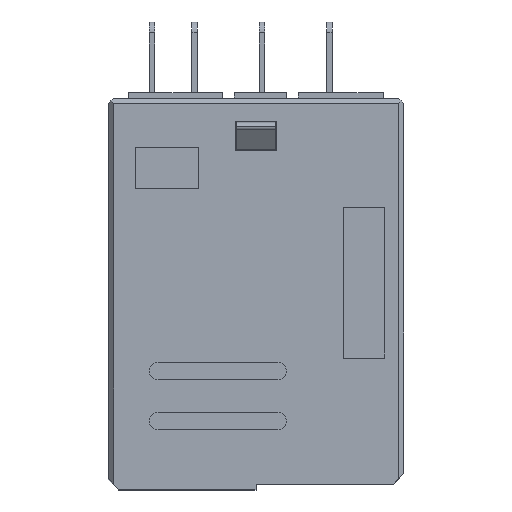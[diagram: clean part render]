
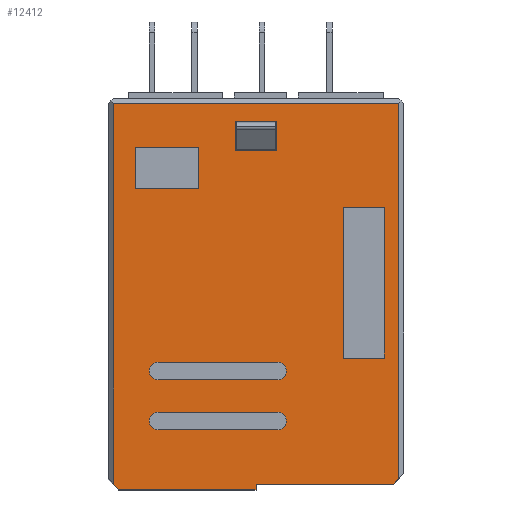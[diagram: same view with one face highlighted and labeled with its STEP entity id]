
A CAD part, top view. The second image highlights one B-rep face of the part: STEP entity #12412.
In plain terms, the highlighted planar face has unit normal (0, 0, 1).
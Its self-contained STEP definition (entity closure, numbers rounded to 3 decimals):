
#5=DIRECTION('',(1.,0.,0.));
#6=VECTOR('',#5,12.6);
#7=CARTESIAN_POINT('',(-12.6,0.,10.4));
#8=LINE('',#7,#6);
#2041=DIRECTION('',(1.,0.,0.));
#2042=VECTOR('',#2041,3.8);
#2043=CARTESIAN_POINT('',(-1.9,31.175,10.4));
#2044=LINE('',#2043,#2042);
#2045=DIRECTION('',(0.,1.,0.));
#2046=VECTOR('',#2045,2.7);
#2047=CARTESIAN_POINT('',(1.9,31.175,10.4));
#2048=LINE('',#2047,#2046);
#2049=DIRECTION('',(-1.,0.,0.));
#2050=VECTOR('',#2049,3.8);
#2051=CARTESIAN_POINT('',(1.9,33.875,10.4));
#2052=LINE('',#2051,#2050);
#2053=DIRECTION('',(0.,-1.,0.));
#2054=VECTOR('',#2053,2.7);
#2055=CARTESIAN_POINT('',(-1.9,33.875,10.4));
#2056=LINE('',#2055,#2054);
#2057=CARTESIAN_POINT('',(-9.,6.3,10.4));
#2058=DIRECTION('',(0.,0.,-1.));
#2059=DIRECTION('',(0.,-1.,0.));
#2060=AXIS2_PLACEMENT_3D('',#2057,#2058,#2059);
#2062=DIRECTION('',(-1.,0.,0.));
#2063=VECTOR('',#2062,11.);
#2064=CARTESIAN_POINT('',(2.,5.5,10.4));
#2065=LINE('',#2064,#2063);
#2066=CARTESIAN_POINT('',(2.,6.3,10.4));
#2067=DIRECTION('',(0.,0.,-1.));
#2068=DIRECTION('',(0.,1.,0.));
#2069=AXIS2_PLACEMENT_3D('',#2066,#2067,#2068);
#2071=DIRECTION('',(1.,0.,0.));
#2072=VECTOR('',#2071,11.);
#2073=CARTESIAN_POINT('',(-9.,7.1,10.4));
#2074=LINE('',#2073,#2072);
#2075=DIRECTION('',(1.,0.,0.));
#2076=VECTOR('',#2075,11.);
#2077=CARTESIAN_POINT('',(-9.,11.7,10.4));
#2078=LINE('',#2077,#2076);
#2079=CARTESIAN_POINT('',(-9.,10.9,10.4));
#2080=DIRECTION('',(0.,0.,-1.));
#2081=DIRECTION('',(0.,-1.,0.));
#2082=AXIS2_PLACEMENT_3D('',#2079,#2080,#2081);
#2084=DIRECTION('',(-1.,0.,0.));
#2085=VECTOR('',#2084,11.);
#2086=CARTESIAN_POINT('',(2.,10.1,10.4));
#2087=LINE('',#2086,#2085);
#2088=CARTESIAN_POINT('',(2.,10.9,10.4));
#2089=DIRECTION('',(0.,0.,-1.));
#2090=DIRECTION('',(0.,1.,0.));
#2091=AXIS2_PLACEMENT_3D('',#2088,#2089,#2090);
#2093=DIRECTION('',(1.,0.,0.));
#2094=VECTOR('',#2093,5.8);
#2095=CARTESIAN_POINT('',(-11.1,31.5,10.4));
#2096=LINE('',#2095,#2094);
#2097=DIRECTION('',(0.,1.,0.));
#2098=VECTOR('',#2097,3.8);
#2099=CARTESIAN_POINT('',(-11.1,27.7,10.4));
#2100=LINE('',#2099,#2098);
#2101=DIRECTION('',(-1.,0.,0.));
#2102=VECTOR('',#2101,5.8);
#2103=CARTESIAN_POINT('',(-5.3,27.7,10.4));
#2104=LINE('',#2103,#2102);
#2105=DIRECTION('',(0.,-1.,0.));
#2106=VECTOR('',#2105,3.8);
#2107=CARTESIAN_POINT('',(-5.3,31.5,10.4));
#2108=LINE('',#2107,#2106);
#2109=DIRECTION('',(1.,0.,0.));
#2110=VECTOR('',#2109,3.8);
#2111=CARTESIAN_POINT('',(8.,25.9,10.4));
#2112=LINE('',#2111,#2110);
#2113=DIRECTION('',(0.,1.,0.));
#2114=VECTOR('',#2113,13.8);
#2115=CARTESIAN_POINT('',(8.,12.1,10.4));
#2116=LINE('',#2115,#2114);
#2117=DIRECTION('',(-1.,0.,0.));
#2118=VECTOR('',#2117,3.8);
#2119=CARTESIAN_POINT('',(11.8,12.1,10.4));
#2120=LINE('',#2119,#2118);
#2121=DIRECTION('',(0.,-1.,0.));
#2122=VECTOR('',#2121,13.8);
#2123=CARTESIAN_POINT('',(11.8,25.9,10.4));
#2124=LINE('',#2123,#2122);
#2125=DIRECTION('',(0.,-1.,0.));
#2126=VECTOR('',#2125,35.);
#2127=CARTESIAN_POINT('',(-13.1,35.5,10.4));
#2128=LINE('',#2127,#2126);
#2129=DIRECTION('',(-1.,0.,0.));
#2130=VECTOR('',#2129,26.2);
#2131=CARTESIAN_POINT('',(13.1,35.5,10.4));
#2132=LINE('',#2131,#2130);
#2133=DIRECTION('',(0.,-1.,0.));
#2134=VECTOR('',#2133,34.5);
#2135=CARTESIAN_POINT('',(13.1,35.5,10.4));
#2136=LINE('',#2135,#2134);
#2137=DIRECTION('',(0.707,0.707,0.));
#2138=VECTOR('',#2137,0.707);
#2139=CARTESIAN_POINT('',(12.6,0.5,10.4));
#2140=LINE('',#2139,#2138);
#2141=DIRECTION('',(-1.,0.,0.));
#2142=VECTOR('',#2141,12.6);
#2143=CARTESIAN_POINT('',(12.6,0.5,10.4));
#2144=LINE('',#2143,#2142);
#2145=DIRECTION('',(0.,1.,0.));
#2146=VECTOR('',#2145,0.5);
#2147=CARTESIAN_POINT('',(0.,0.,10.4));
#2148=LINE('',#2147,#2146);
#2149=DIRECTION('',(0.707,-0.707,0.));
#2150=VECTOR('',#2149,0.707);
#2151=CARTESIAN_POINT('',(-13.1,0.5,10.4));
#2152=LINE('',#2151,#2150);
#7761=CARTESIAN_POINT('',(0.,0.,10.4));
#7762=CARTESIAN_POINT('',(0.,0.5,10.4));
#7763=VERTEX_POINT('',#7761);
#7764=VERTEX_POINT('',#7762);
#7825=CARTESIAN_POINT('',(-1.9,31.175,10.4));
#7826=CARTESIAN_POINT('',(1.9,31.175,10.4));
#7827=VERTEX_POINT('',#7825);
#7828=VERTEX_POINT('',#7826);
#7829=CARTESIAN_POINT('',(1.9,33.875,10.4));
#7830=VERTEX_POINT('',#7829);
#7831=CARTESIAN_POINT('',(-1.9,33.875,10.4));
#7832=VERTEX_POINT('',#7831);
#8267=CARTESIAN_POINT('',(-9.,5.5,10.4));
#8268=VERTEX_POINT('',#8267);
#8269=CARTESIAN_POINT('',(-9.,7.1,10.4));
#8270=VERTEX_POINT('',#8269);
#8271=CARTESIAN_POINT('',(2.,7.1,10.4));
#8272=VERTEX_POINT('',#8271);
#8273=CARTESIAN_POINT('',(2.,5.5,10.4));
#8274=VERTEX_POINT('',#8273);
#8275=CARTESIAN_POINT('',(-9.,11.7,10.4));
#8276=VERTEX_POINT('',#8275);
#8277=CARTESIAN_POINT('',(2.,11.7,10.4));
#8278=VERTEX_POINT('',#8277);
#8279=CARTESIAN_POINT('',(2.,10.1,10.4));
#8280=VERTEX_POINT('',#8279);
#8281=CARTESIAN_POINT('',(-9.,10.1,10.4));
#8282=VERTEX_POINT('',#8281);
#8291=CARTESIAN_POINT('',(-11.1,31.5,10.4));
#8292=VERTEX_POINT('',#8291);
#8293=CARTESIAN_POINT('',(-5.3,31.5,10.4));
#8294=VERTEX_POINT('',#8293);
#8295=CARTESIAN_POINT('',(-5.3,27.7,10.4));
#8296=VERTEX_POINT('',#8295);
#8297=CARTESIAN_POINT('',(-11.1,27.7,10.4));
#8298=VERTEX_POINT('',#8297);
#8307=CARTESIAN_POINT('',(8.,25.9,10.4));
#8308=VERTEX_POINT('',#8307);
#8309=CARTESIAN_POINT('',(11.8,25.9,10.4));
#8310=VERTEX_POINT('',#8309);
#8311=CARTESIAN_POINT('',(11.8,12.1,10.4));
#8312=VERTEX_POINT('',#8311);
#8313=CARTESIAN_POINT('',(8.,12.1,10.4));
#8314=VERTEX_POINT('',#8313);
#9289=CARTESIAN_POINT('',(-12.6,0.,10.4));
#9291=VERTEX_POINT('',#9289);
#9302=CARTESIAN_POINT('',(12.6,0.5,10.4));
#9304=VERTEX_POINT('',#9302);
#9313=CARTESIAN_POINT('',(-13.1,0.5,10.4));
#9315=VERTEX_POINT('',#9313);
#9319=CARTESIAN_POINT('',(-13.1,35.5,10.4));
#9320=VERTEX_POINT('',#9319);
#9322=CARTESIAN_POINT('',(13.1,1.,10.4));
#9324=VERTEX_POINT('',#9322);
#9325=CARTESIAN_POINT('',(13.1,35.5,10.4));
#9326=VERTEX_POINT('',#9325);
#12344=CARTESIAN_POINT('',(-13.6,0.,10.4));
#12345=DIRECTION('',(0.,0.,1.));
#12346=DIRECTION('',(1.,0.,0.));
#12347=AXIS2_PLACEMENT_3D('',#12344,#12345,#12346);
#12348=PLANE('',#12347);
#12349=ORIENTED_EDGE('',*,*,#9431,.F.);
#12351=ORIENTED_EDGE('',*,*,#12350,.F.);
#12352=ORIENTED_EDGE('',*,*,#12333,.T.);
#12353=ORIENTED_EDGE('',*,*,#12322,.F.);
#12355=ORIENTED_EDGE('',*,*,#12354,.T.);
#12357=ORIENTED_EDGE('',*,*,#12356,.F.);
#12358=ORIENTED_EDGE('',*,*,#9368,.F.);
#12359=ORIENTED_EDGE('',*,*,#9400,.F.);
#12360=EDGE_LOOP('',(#12349,#12351,#12352,#12353,#12355,#12357,#12358,#12359));
#12361=FACE_OUTER_BOUND('',#12360,.F.);
#12363=ORIENTED_EDGE('',*,*,#12362,.F.);
#12365=ORIENTED_EDGE('',*,*,#12364,.F.);
#12367=ORIENTED_EDGE('',*,*,#12366,.F.);
#12369=ORIENTED_EDGE('',*,*,#12368,.F.);
#12370=EDGE_LOOP('',(#12363,#12365,#12367,#12369));
#12371=FACE_BOUND('',#12370,.F.);
#12373=ORIENTED_EDGE('',*,*,#12372,.F.);
#12375=ORIENTED_EDGE('',*,*,#12374,.F.);
#12377=ORIENTED_EDGE('',*,*,#12376,.F.);
#12379=ORIENTED_EDGE('',*,*,#12378,.F.);
#12380=EDGE_LOOP('',(#12373,#12375,#12377,#12379));
#12381=FACE_BOUND('',#12380,.F.);
#12383=ORIENTED_EDGE('',*,*,#12382,.F.);
#12385=ORIENTED_EDGE('',*,*,#12384,.F.);
#12387=ORIENTED_EDGE('',*,*,#12386,.F.);
#12389=ORIENTED_EDGE('',*,*,#12388,.F.);
#12390=EDGE_LOOP('',(#12383,#12385,#12387,#12389));
#12391=FACE_BOUND('',#12390,.F.);
#12393=ORIENTED_EDGE('',*,*,#12392,.F.);
#12395=ORIENTED_EDGE('',*,*,#12394,.F.);
#12397=ORIENTED_EDGE('',*,*,#12396,.F.);
#12399=ORIENTED_EDGE('',*,*,#12398,.F.);
#12400=EDGE_LOOP('',(#12393,#12395,#12397,#12399));
#12401=FACE_BOUND('',#12400,.F.);
#12403=ORIENTED_EDGE('',*,*,#12402,.T.);
#12405=ORIENTED_EDGE('',*,*,#12404,.T.);
#12407=ORIENTED_EDGE('',*,*,#12406,.T.);
#12409=ORIENTED_EDGE('',*,*,#12408,.T.);
#12410=EDGE_LOOP('',(#12403,#12405,#12407,#12409));
#12411=FACE_BOUND('',#12410,.F.);
#12412=ADVANCED_FACE('',(#12361,#12371,#12381,#12391,#12401,#12411),#12348,.T.);
#2061=CIRCLE('',#2060,0.8);
#2070=CIRCLE('',#2069,0.8);
#2083=CIRCLE('',#2082,0.8);
#2092=CIRCLE('',#2091,0.8);
#9368=EDGE_CURVE('',#9291,#7763,#8,.T.);
#9400=EDGE_CURVE('',#9315,#9291,#2152,.T.);
#9431=EDGE_CURVE('',#9320,#9315,#2128,.T.);
#12322=EDGE_CURVE('',#9304,#9324,#2140,.T.);
#12333=EDGE_CURVE('',#9326,#9324,#2136,.T.);
#12350=EDGE_CURVE('',#9326,#9320,#2132,.T.);
#12354=EDGE_CURVE('',#9304,#7764,#2144,.T.);
#12356=EDGE_CURVE('',#7763,#7764,#2148,.T.);
#12362=EDGE_CURVE('',#8268,#8270,#2061,.T.);
#12364=EDGE_CURVE('',#8274,#8268,#2065,.T.);
#12366=EDGE_CURVE('',#8272,#8274,#2070,.T.);
#12368=EDGE_CURVE('',#8270,#8272,#2074,.T.);
#12372=EDGE_CURVE('',#8276,#8278,#2078,.T.);
#12374=EDGE_CURVE('',#8282,#8276,#2083,.T.);
#12376=EDGE_CURVE('',#8280,#8282,#2087,.T.);
#12378=EDGE_CURVE('',#8278,#8280,#2092,.T.);
#12382=EDGE_CURVE('',#8292,#8294,#2096,.T.);
#12384=EDGE_CURVE('',#8298,#8292,#2100,.T.);
#12386=EDGE_CURVE('',#8296,#8298,#2104,.T.);
#12388=EDGE_CURVE('',#8294,#8296,#2108,.T.);
#12392=EDGE_CURVE('',#8308,#8310,#2112,.T.);
#12394=EDGE_CURVE('',#8314,#8308,#2116,.T.);
#12396=EDGE_CURVE('',#8312,#8314,#2120,.T.);
#12398=EDGE_CURVE('',#8310,#8312,#2124,.T.);
#12402=EDGE_CURVE('',#7827,#7828,#2044,.T.);
#12404=EDGE_CURVE('',#7828,#7830,#2048,.T.);
#12406=EDGE_CURVE('',#7830,#7832,#2052,.T.);
#12408=EDGE_CURVE('',#7832,#7827,#2056,.T.);
